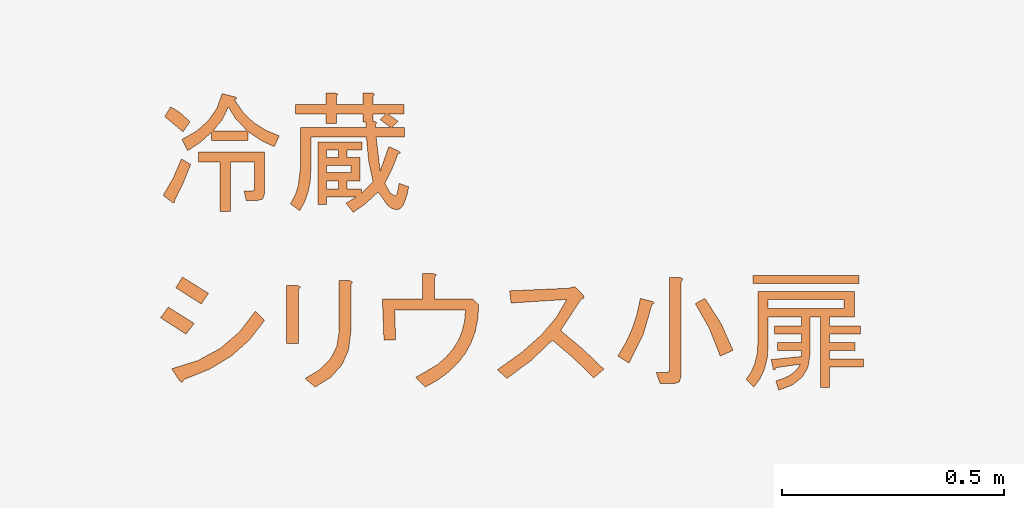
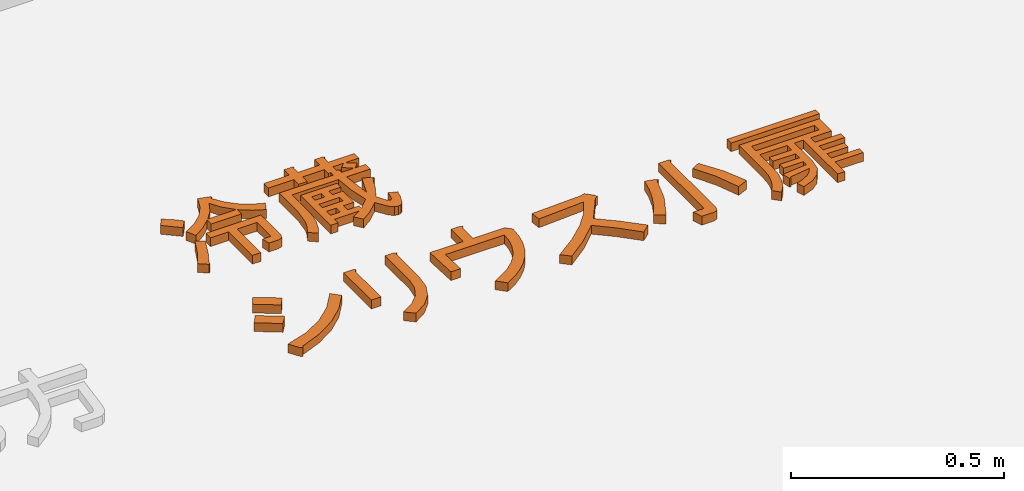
# One storey, part 10 of 16: 1 proxy.
"""IFC2X3 building model written with IfcOpenShell, lengths in millimetres."""

from ifc_helpers import new_model, entity, si_unit, converted_unit, derived_unit, direction, frame, frame_2d, origin, place, context, subcontext, project, spatial, polyline, rectangle, outline, extrude, type_object, element, save


model = new_model("IFC2X3")

# Units and contexts
model_context = context("Model", 3, precision=0.01, world=origin(), true_north=direction((6.123031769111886e-17, 1.0)))
body_context = subcontext(model_context, "Body", "Model", "MODEL_VIEW")
ifc_project = project(units=[si_unit("LENGTHUNIT", "METRE", prefix="MILLI"), si_unit("AREAUNIT", "SQUARE_METRE"), si_unit("VOLUMEUNIT", "CUBIC_METRE"), converted_unit("PLANEANGLEUNIT", "DEGREE", entity("IfcRatioMeasure", 0.017453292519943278), si_unit("PLANEANGLEUNIT", "RADIAN"), dimensions=[0, 0, 0, 0, 0, 0, 0]), si_unit("MASSUNIT", "GRAM", prefix="KILO"), derived_unit("MASSDENSITYUNIT", [(si_unit("MASSUNIT", "GRAM", prefix="KILO"), 1), (si_unit("LENGTHUNIT", "METRE"), -3)]), derived_unit("IONCONCENTRATIONUNIT", [(si_unit("MASSUNIT", "GRAM", prefix="KILO"), 1), (si_unit("LENGTHUNIT", "METRE"), -3)]), derived_unit("MOMENTOFINERTIAUNIT", [(si_unit("LENGTHUNIT", "METRE"), 4)]), si_unit("TIMEUNIT", "SECOND"), si_unit("FREQUENCYUNIT", "HERTZ"), si_unit("THERMODYNAMICTEMPERATUREUNIT", "DEGREE_CELSIUS"), derived_unit("THERMALTRANSMITTANCEUNIT", [(si_unit("MASSUNIT", "GRAM", prefix="KILO"), 1), (si_unit("THERMODYNAMICTEMPERATUREUNIT", "KELVIN"), -1), (si_unit("TIMEUNIT", "SECOND"), -3)]), derived_unit("THERMALCONDUCTANCEUNIT", [(si_unit("MASSUNIT", "GRAM", prefix="KILO"), 1), (si_unit("THERMODYNAMICTEMPERATUREUNIT", "KELVIN"), -1), (si_unit("TIMEUNIT", "SECOND"), -3), (si_unit("LENGTHUNIT", "METRE"), 1)]), derived_unit("VOLUMETRICFLOWRATEUNIT", [(si_unit("LENGTHUNIT", "METRE"), 3), (si_unit("TIMEUNIT", "SECOND"), -1)]), derived_unit("MASSFLOWRATEUNIT", [(si_unit("MASSUNIT", "GRAM", prefix="KILO"), 1), (si_unit("TIMEUNIT", "SECOND"), -1)]), derived_unit("ROTATIONALFREQUENCYUNIT", [(si_unit("TIMEUNIT", "SECOND"), -1)]), si_unit("ELECTRICCURRENTUNIT", "AMPERE"), si_unit("ELECTRICVOLTAGEUNIT", "VOLT"), si_unit("POWERUNIT", "WATT"), si_unit("FORCEUNIT", "NEWTON", prefix="KILO"), si_unit("ILLUMINANCEUNIT", "LUX"), si_unit("LUMINOUSFLUXUNIT", "LUMEN"), si_unit("LUMINOUSINTENSITYUNIT", "CANDELA"), derived_unit("USERDEFINED", [(si_unit("MASSUNIT", "GRAM", prefix="KILO"), -1), (si_unit("LENGTHUNIT", "METRE"), -2), (si_unit("TIMEUNIT", "SECOND"), 3), (si_unit("LUMINOUSFLUXUNIT", "LUMEN"), 1)]), derived_unit("USERDEFINED", [(si_unit("MASSUNIT", "GRAM", prefix="KILO"), 1), (si_unit("TIMEUNIT", "SECOND"), -3), (si_unit("LENGTHUNIT", "METRE"), 3), (si_unit("ELECTRICCURRENTUNIT", "AMPERE"), -2)]), derived_unit("SOUNDPOWERUNIT", [(si_unit("MASSUNIT", "GRAM", prefix="KILO"), 1), (si_unit("TIMEUNIT", "SECOND"), -3), (si_unit("LENGTHUNIT", "METRE"), 2)]), derived_unit("SOUNDPRESSUREUNIT", [(si_unit("MASSUNIT", "GRAM", prefix="KILO"), 1), (si_unit("LENGTHUNIT", "METRE"), -1), (si_unit("TIMEUNIT", "SECOND"), -2)]), derived_unit("LINEARVELOCITYUNIT", [(si_unit("LENGTHUNIT", "METRE"), 1), (si_unit("TIMEUNIT", "SECOND"), -1)]), si_unit("PRESSUREUNIT", "PASCAL"), derived_unit("USERDEFINED", [(si_unit("MASSUNIT", "GRAM", prefix="KILO"), 1), (si_unit("LENGTHUNIT", "METRE"), -2), (si_unit("TIMEUNIT", "SECOND"), -2)]), derived_unit("LINEARFORCEUNIT", [(si_unit("MASSUNIT", "GRAM", prefix="KILO"), 1), (si_unit("TIMEUNIT", "SECOND"), -2)]), derived_unit("PLANARFORCEUNIT", [(si_unit("MASSUNIT", "GRAM", prefix="KILO"), 1), (si_unit("LENGTHUNIT", "METRE"), -1), (si_unit("TIMEUNIT", "SECOND"), -2)]), derived_unit("SPECIFICHEATCAPACITYUNIT", [(si_unit("THERMODYNAMICTEMPERATUREUNIT", "KELVIN"), -1), (si_unit("LENGTHUNIT", "METRE"), 2), (si_unit("TIMEUNIT", "SECOND"), -2)]), derived_unit("HEATINGVALUEUNIT", [(si_unit("LENGTHUNIT", "METRE"), 2), (si_unit("TIMEUNIT", "SECOND"), -2)]), derived_unit("VAPORPERMEABILITYUNIT", [(si_unit("LENGTHUNIT", "METRE"), -1), (si_unit("TIMEUNIT", "SECOND"), 1)]), derived_unit("DYNAMICVISCOSITYUNIT", [(si_unit("MASSUNIT", "GRAM", prefix="KILO"), 1), (si_unit("TIMEUNIT", "SECOND"), -1), (si_unit("LENGTHUNIT", "METRE"), -1)]), derived_unit("THERMALEXPANSIONCOEFFICIENTUNIT", [(si_unit("THERMODYNAMICTEMPERATUREUNIT", "KELVIN"), -1)]), derived_unit("MODULUSOFELASTICITYUNIT", [(si_unit("MASSUNIT", "GRAM", prefix="KILO"), 1), (si_unit("LENGTHUNIT", "METRE"), -1), (si_unit("TIMEUNIT", "SECOND"), -2)]), derived_unit("ISOTHERMALMOISTURECAPACITYUNIT", [(si_unit("LENGTHUNIT", "METRE"), 3), (si_unit("MASSUNIT", "GRAM", prefix="KILO"), -1)]), derived_unit("MOISTUREDIFFUSIVITYUNIT", [(si_unit("TIMEUNIT", "SECOND"), -1), (si_unit("LENGTHUNIT", "METRE"), 2)])], contexts=[model_context])

# Site, building, storey
site_placement = place(None, origin())
site = spatial("IfcSite", under=ifc_project, at=site_placement, Name="Default", CompositionType="ELEMENT")
building_placement = place(site_placement, origin())
building = spatial("IfcBuilding", under=site, at=building_placement, CompositionType="ELEMENT")
storey_placement = place(building_placement, frame((0.0, 0.0, 500.0)))
storey = spatial("IfcBuildingStorey", under=building, at=storey_placement, Name="レベル 1", CompositionType="ELEMENT", Elevation=500.00000000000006)

# Proxy
building_element_proxy_type = type_object("IfcBuildingElementProxyType", Name="立体文字:200㎜\u3000MS Pゴシック", PredefinedType="NOTDEFINED")
proxy_placement = place(storey_placement, origin())
element("IfcBuildingElementProxy", 1, at=proxy_placement, inside=storey, type_object=building_element_proxy_type, Name="立体文字:200㎜\u3000MS Pゴシック", ObjectType="立体文字:200㎜\u3000MS Pゴシック", context=body_context, shape_type="SweptSolid", body=[
    extrude(outline(polyline([(-12.692928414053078, -26.50604676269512), (13.137935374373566, -26.50604676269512), (20.196666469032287, 26.89478847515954), (-7.83365700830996, 28.224694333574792), (-12.808016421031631, -2.107389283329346), (-12.692928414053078, -26.50604676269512)])), frame((-18126.052503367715, 18997.184638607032, 0.0), z_axis=(0.0, 0.0, 1.0), x_axis=(-0.5339929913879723, -0.8454889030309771, 0.0)), (0.0, 0.0, 1.0), 24.99999999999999),
    extrude(outline(polyline([(-86.1524291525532, -7.393505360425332), (-75.80730398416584, -7.393505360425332), (-75.80730398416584, 24.79132849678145), (-57.415970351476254, 24.79132849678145), (-57.415970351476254, -3.945130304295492), (-4.5408861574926, -3.945130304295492), (-4.5408861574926, 24.79132849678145), (11.551530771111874, 24.79132849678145), (11.551530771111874, -8.54296371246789), (29.942864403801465, -8.54296371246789), (29.942864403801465, 90.31045456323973), (-111.44051289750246, 90.31045456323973), (-111.44051289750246, 70.76966257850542), (-94.19863761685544, 70.76966257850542), (-94.19863761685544, 4.101078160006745), (-107.99213784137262, 27.090245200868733), (-128.68238817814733, 10.997828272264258), (-110.29105454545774, -15.727078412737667), (-82.70405409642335, -45.32563097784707), (-112.87733583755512, -66.5906104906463), (-120.4206562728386, -76.79205336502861), (-122.93509641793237, -86.70613165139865), (-120.7798620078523, -94.68049896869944), (-114.31415877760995, -101.36172563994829), (-88.45134585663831, -110.84475704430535), (-71.20947057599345, -114.29313210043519), (-63.16326211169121, -92.45342341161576), (-78.10622068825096, -90.15450670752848), (-88.45134585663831, -87.28086082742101), (-91.89972091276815, -83.25775659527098), (-84.71560621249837, -72.33790225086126), (-63.16326211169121, -60.26858955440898), (-30.403699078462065, -76.93573565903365), (3.5053223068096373, -90.15450670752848), (5.516874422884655, -95.9017984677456), (9.252614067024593, -92.45342341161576), (19.597739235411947, -69.46425637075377), (-35.576261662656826, -49.92346438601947), (41.43744792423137, -40.72779756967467), (41.43744792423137, -105.0974652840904), (63.277156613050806, -105.0974652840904), (63.277156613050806, -76.3610064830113), (77.070656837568, -90.15450670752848), (93.16307376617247, -67.1653396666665), (93.16307376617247, -103.94800693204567), (115.00278245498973, -103.94800693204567), (115.00278245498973, -33.83104745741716), (133.39411608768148, -33.83104745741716), (137.9919494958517, -37.5667871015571), (140.290866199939, -32.6815891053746), (140.290866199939, -10.84188041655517), (115.00278245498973, -10.84188041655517), (115.00278245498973, 48.929953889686), (133.39411608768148, 48.929953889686), (137.9919494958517, 45.19421424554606), (140.290866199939, 50.079412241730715), (140.290866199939, 71.91912093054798), (115.00278245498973, 71.91912093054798), (115.00278245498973, 140.8866220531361), (93.16307376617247, 140.8866220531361), (93.16307376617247, 71.91912093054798), (71.32336507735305, 71.91912093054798), (71.32336507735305, 48.929953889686), (93.16307376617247, 48.929953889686), (93.16307376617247, -10.84188041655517), (74.77174013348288, -10.84188041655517), (74.77174013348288, -17.738630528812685), (63.277156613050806, -17.738630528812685), (63.277156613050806, 129.39203853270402), (-24.081678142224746, 129.39203853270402), (-70.63474139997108, 135.139330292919), (-90.89394485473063, 142.32344499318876), (-109.14159619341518, 152.381205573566), (-125.23401312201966, 131.69095523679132), (-105.2621742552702, 120.62741859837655), (-83.27878327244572, 112.72489242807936), (-59.283840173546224, 107.98337672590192), (-33.27734495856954, 106.40287149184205), (41.43744792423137, 106.40287149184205), (41.43744792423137, -18.888088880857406), (-12.012365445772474, -23.773286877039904), (-59.71488705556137, -33.83104745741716), (-86.1524291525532, -7.393505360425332)]), holes=[polyline([(75.92119848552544, -38.428880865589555), (75.92119848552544, -33.83104745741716), (93.16307376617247, -33.83104745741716), (93.16307376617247, -62.5675062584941), (80.51903189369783, -49.92346438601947), (63.277156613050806, -72.91263142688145), (63.277156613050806, -39.57833921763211), (70.17390672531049, -39.57833921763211), (73.33491719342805, -43.31407886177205), (75.92119848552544, -38.428880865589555)]), polyline([(-4.5408861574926, 70.76966257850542), (11.551530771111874, 70.76966257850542), (11.551530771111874, 44.3321204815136), (-4.5408861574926, 44.3321204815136), (-4.5408861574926, 70.76966257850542)]), polyline([(-39.02463671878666, 70.76966257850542), (-22.932219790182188, 70.76966257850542), (-22.932219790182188, 15.595661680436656), (-39.02463671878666, 15.595661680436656), (-39.02463671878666, 70.76966257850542)]), polyline([(-75.80730398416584, 70.76966257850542), (-57.415970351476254, 70.76966257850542), (-57.415970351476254, 44.3321204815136), (-75.80730398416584, 44.3321204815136), (-75.80730398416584, 70.76966257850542)])]), frame((-17719.181218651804, 18912.81492123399, 0.0), z_axis=(0.0, 0.0, 1.0), x_axis=(0.0, 1.0, 0.0)), (0.0, 0.0, 1.0), 25.0),
    extrude(outline(polyline([(-14.555450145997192, -34.358308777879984), (13.83407691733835, -34.358308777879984), (14.857961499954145, 33.86963659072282), (-14.13658827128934, 34.84698096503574), (-14.555450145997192, -34.358308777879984)])), frame((-18093.695250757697, 18607.702182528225, 0.0), z_axis=(0.0, 0.0, 1.0), x_axis=(-0.526354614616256, -0.8502651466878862, 0.0)), (0.0, 0.0, 1.0), 24.99999999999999),
    extrude(outline(polyline([(-84.58097707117, 8.18989075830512), (-84.58097707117, -18.247651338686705), (45.307816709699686, -18.247651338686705), (45.307816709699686, 7.040432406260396), (42.43417082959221, 13.075088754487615), (36.112149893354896, 8.18989075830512), (-84.58097707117, 8.18989075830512)])), frame((-17862.05065636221, 18573.314220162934, 0.0), z_axis=(0.0, 0.0, -1.0), x_axis=(0.0, 1.0, 0.0)), (0.0, 0.0, -1.0), 25.0),
    extrude(outline(polyline([(-11.477428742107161, -36.07605005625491), (15.650762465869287, -36.07605005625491), (18.54865721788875, -33.22685941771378), (15.261129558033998, -27.796350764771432), (8.86871466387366, 11.398284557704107), (-3.1003212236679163, 57.19232725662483), (-27.257561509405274, 55.09805037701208), (-16.493952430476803, 9.486648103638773), (-11.477428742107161, -36.07605005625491)])), frame((-18128.286763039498, 18844.299493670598, 0.0), z_axis=(0.0, 0.0, 1.0), x_axis=(0.805055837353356, -0.5931990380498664, 0.0)), (0.0, 0.0, 1.0), 24.999999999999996),
    extrude(outline(polyline([(-21.439239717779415, -112.6130363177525), (6.8336974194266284, -112.6130363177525), (2.5927568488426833, -77.40037824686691), (-6.017637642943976, -45.78609399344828), (10.432071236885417, -54.01094843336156), (47.44391621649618, 20.012741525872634), (29.966100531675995, 28.751649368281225), (60.93781803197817, 46.357978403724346), (85.99792140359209, 66.27754775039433), (69.54821252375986, 87.35373725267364), (43.46000234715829, 64.89602923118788), (15.058551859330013, 48.41419201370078), (-15.656138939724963, 37.908225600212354), (-48.68407005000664, 33.37812999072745), (-48.298529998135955, 38.64717736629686), (-52.282443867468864, 39.0327174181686), (-73.35863336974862, 14.872207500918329), (-49.680048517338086, -10.059382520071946), (-33.13395462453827, -39.61745316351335), (-23.720351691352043, -73.80200442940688), (-21.439239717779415, -112.6130363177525)]), holes=[polyline([(26.881780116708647, 27.723542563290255), (-7.559797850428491, -41.15961337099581), (-20.668159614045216, -11.473029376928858), (-40.45921561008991, 13.844100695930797), (-9.23047140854, 16.542881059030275), (26.881780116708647, 27.723542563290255)])]), frame((-18006.084971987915, 18979.691319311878, 0.0), z_axis=(0.0, 0.0, 1.0), x_axis=(0.4472135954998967, -0.8944271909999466, 0.0)), (0.0, 0.0, 1.0), 24.99999999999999),
    extrude(outline(polyline([(-95.80016952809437, -47.900084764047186), (-95.80016952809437, -69.73979345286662), (53.629416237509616, -69.73979345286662), (53.629416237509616, 24.51579141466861), (49.60631200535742, 35.723010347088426), (37.536999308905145, 39.458749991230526), (12.248915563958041, 39.458749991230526), (7.6510821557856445, 17.619041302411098), (26.042415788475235, 17.619041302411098), (29.49079084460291, 16.469582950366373), (30.64024919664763, 13.0212078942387), (30.64024919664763, -47.900084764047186), (-23.384293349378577, -47.900084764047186), (-23.384293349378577, 63.59737538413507), (-46.37346039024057, 63.59737538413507), (-46.37346039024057, -47.900084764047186), (-95.80016952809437, -47.900084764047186)])), frame((-17983.81421641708, 18850.02882514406, 0.0), z_axis=(0.0, 0.0, -1.0), x_axis=(1.0, 0.0, 0.0)), (0.0, 0.0, -1.0), 24.99999999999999),
    extrude(outline(polyline([(-24.760861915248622, -100.93244714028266), (5.213344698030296, -100.93244714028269), (14.007247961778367, -98.35378377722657), (10.414751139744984, -90.61779368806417), (21.87547719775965, -29.787786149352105), (23.197868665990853, 27.95664129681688), (14.381925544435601, 82.61548865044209), (-4.572352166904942, 134.1887559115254), (-33.1360078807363, 127.84127686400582), (-12.97504795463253, 72.94550103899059), (-4.858870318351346, 16.51795509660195), (-8.787474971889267, -41.44136096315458), (-24.760861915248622, -100.93244714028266)])), frame((-18040.93990180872, 18464.558697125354, 0.0), z_axis=(0.0, 0.0, 1.0), x_axis=(0.5368754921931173, -0.8436614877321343, 0.0)), (0.0, 0.0, 1.0), 24.99999999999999),
    extrude(outline(polyline([(12.171942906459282, 32.40035729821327), (-27.91541712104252, 27.37147700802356), (-61.96812080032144, 12.284836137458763), (-89.98616813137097, -12.859565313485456), (-111.96955911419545, -48.061727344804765), (-92.4287671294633, -71.05089438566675), (-72.88797514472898, -37.78844332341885), (-48.74934975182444, -13.865341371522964), (-20.0128909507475, 0.7184114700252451), (13.321401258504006, 5.962815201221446), (128.26723646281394, 5.962815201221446), (128.26723646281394, 30.10144059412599), (124.8188614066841, 36.423461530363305), (119.07156964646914, 32.40035729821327), (12.171942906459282, 32.40035729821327)])), frame((-17767.86691264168, 18501.84938393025, 0.0), z_axis=(0.0, 0.0, -1.0), x_axis=(0.0, 1.0, 0.0)), (0.0, 0.0, -1.0), 25.0),
    extrude(outline(polyline([(-12.927911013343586, -34.30740209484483), (16.736132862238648, -34.30740209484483), (13.261965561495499, 33.83972572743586), (-17.070187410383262, 34.77507846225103), (-12.927911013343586, -34.30740209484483)])), frame((-18127.02954296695, 18539.884139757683, 0.0), z_axis=(0.0, 0.0, 1.0), x_axis=(-0.5812381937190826, -0.8137334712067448, 0.0)), (0.0, 0.0, 1.0), 24.99999999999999),
    extrude(outline(polyline([(-22.974011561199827, -96.89434063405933), (-3.467056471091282, -96.89434063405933), (57.492178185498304, -35.935105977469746), (91.62934959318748, -70.07227738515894), (93.0517317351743, -77.59058299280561), (100.57003734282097, -74.13622636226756), (116.82583325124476, -57.88043045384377), (76.18634348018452, -17.240940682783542), (140.39673731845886, 46.9694531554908), (72.12239450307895, 110.36705719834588), (53.428229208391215, 91.67289190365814), (103.00840672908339, 45.343873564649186), (-9.969374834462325, -67.6339079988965), (-25.869575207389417, -48.88894334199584), (-38.21382022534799, -28.823195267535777), (-47.002109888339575, -7.436663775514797), (-52.23444419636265, 15.270651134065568), (-53.91082314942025, 39.29874946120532), (-52.03124674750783, 64.64763120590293), (-37.604227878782, 119.30774494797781), (-68.49024010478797, 119.30774494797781), (-77.20233072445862, 88.01533782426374), (-81.79967300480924, 57.94211539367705), (-82.28226694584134, 29.0880776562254), (-78.6501125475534, 1.4532246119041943), (-70.90320980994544, -24.9624437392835), (-59.04155873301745, -50.15892739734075), (-43.06515931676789, -74.13622636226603), (-22.974011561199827, -96.89434063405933)])), frame((-17531.71223366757, 18522.673053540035, 0.0), z_axis=(0.0, 0.0, 1.0), x_axis=(-0.7071067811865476, 0.7071067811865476, 0.0)), (0.0, 0.0, 1.0), 24.999999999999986),
    extrude(outline(polyline([(5.52509168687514, 11.308020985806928), (-1.6526031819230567, 74.77664998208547), (-13.951595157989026, 140.91623239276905), (-42.89874219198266, 132.4070002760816), (-29.96943672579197, 67.22864593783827), (-22.82325753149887, 7.904328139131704), (-87.34766162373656, -7.171982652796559), (-151.01326358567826, -30.371458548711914), (-146.648342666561, -59.35012125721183), (-83.07334826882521, -34.7166821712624), (-25.48633202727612, -19.214909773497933), (26.112706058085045, -12.844804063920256), (71.72376598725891, -15.606365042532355), (-3.7090009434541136, -115.96803050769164), (17.46953232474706, -133.97923848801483), (95.39203754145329, -25.628349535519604), (105.83948364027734, -15.984553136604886), (100.54485032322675, 9.480111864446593), (96.59357263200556, 15.50748461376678), (89.3725437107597, 11.30802098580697), (5.52509168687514, 11.308020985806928)])), frame((-17274.78951065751, 18519.0502071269, 0.0), z_axis=(0.0, 0.0, -1.0), x_axis=(0.548356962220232, 0.8362443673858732, 0.0)), (0.0, 0.0, -1.0), 25.0),
    extrude(outline(polyline([(-1.1670104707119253, -84.82369873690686), (28.807196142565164, -84.82369873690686), (21.005086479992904, -13.15008115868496), (1.4777724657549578, 54.46820258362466), (4.232754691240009, 60.308764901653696), (-1.2551699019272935, 60.90384106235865), (-28.231955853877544, 51.91157907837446), (-15.696786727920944, 19.099740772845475), (-7.007572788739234, -14.626751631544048), (-2.1643140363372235, -49.267898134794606), (-1.1670104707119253, -84.82369873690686)])), frame((-17086.580073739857, 18530.932732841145, 0.0), z_axis=(0.0, 0.0, 1.0), x_axis=(0.8436614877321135, -0.53687549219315, 0.0)), (0.0, 0.0, 1.0), 24.99999999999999),
    extrude(outline(polyline([(11.877736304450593, 63.81888558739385), (37.165820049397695, 63.81888558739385), (27.9701532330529, 89.10696933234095), (-4.21468062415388, 89.10696933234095), (-15.421899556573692, 85.37122968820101), (-19.15763920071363, 74.1640107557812), (-19.15763920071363, -140.7847010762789), (-24.04283719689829, -146.53199283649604), (-18.00818084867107, -149.98036789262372), (7.279902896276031, -149.98036789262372), (7.279902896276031, 59.22105217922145), (8.429361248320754, 62.669427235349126), (11.877736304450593, 63.81888558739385)])), frame((-17009.729204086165, 18487.033002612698, 0.0), z_axis=(0.0, 0.0, 1.0), x_axis=(-1.0, 0.0, 0.0)), (0.0, 0.0, 1.0), 24.99999999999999),
    extrude(rectangle(XDim=239.08733722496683, YDim=18.39133363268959, at=frame_2d((1.0800249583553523e-12, 0.0), x_axis=(1.0, 0.0))), frame((-16708.954268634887, 18632.41553709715, 0.0), z_axis=(0.0, 0.0, 1.0), x_axis=(-1.0, 0.0, 0.0)), (0.0, 0.0, 1.0), 25.0),
    extrude(outline(polyline([(45.656903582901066, -73.01948813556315), (67.46634239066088, -73.01948813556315), (65.92150714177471, -40.16902093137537), (56.56162298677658, -13.952258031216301), (39.38668992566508, 5.63080056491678), (14.396707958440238, 18.580154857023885), (-67.38868757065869, 45.84195336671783), (-59.755383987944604, 68.74186411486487), (91.82021572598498, 18.21666421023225), (97.99955672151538, 36.754687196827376), (54.38067910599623, 51.29431306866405), (78.73455244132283, 124.35593307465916), (61.28700139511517, 130.17178342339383), (36.933128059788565, 57.11016341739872), (18.39510507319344, 63.28950441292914), (36.56963741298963, 117.8131014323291), (19.122086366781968, 123.62895178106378), (0.9475540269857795, 69.10535476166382), (-16.49999701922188, 74.92120511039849), (5.672932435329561, 141.43999347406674), (-11.774618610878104, 147.2558438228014), (-33.947548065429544, 80.73705545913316), (-53.576042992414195, 87.27988710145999), (-35.76500129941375, 140.7130121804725), (-90.2885983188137, 158.8875445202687), (-158.98833056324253, -47.211652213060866), (-48.85066458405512, -83.92420753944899), (-26.88219861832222, -92.98875554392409), (-7.867094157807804, -104.55230174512), (8.194648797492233, -118.6148461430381), (21.303030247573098, -135.17638873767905), (43.11246905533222, -124.27166933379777), (29.36797897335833, -104.84763789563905), (11.761400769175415, -88.37696796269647), (-9.707265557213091, -74.85965953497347), (-35.03802000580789, -64.29571261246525), (-97.19492060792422, -43.57674574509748), (-73.56802856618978, 27.303930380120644), (-53.939533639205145, 20.761098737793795), (-73.20453791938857, -37.03391410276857), (-55.75698687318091, -42.84976445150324), (-36.49198259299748, 14.945248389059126), (-19.04443154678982, 9.129398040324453), (-36.12849194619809, -42.122783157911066), (-18.680940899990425, -47.938633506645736), (-1.5968805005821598, 3.3135476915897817), (11.488782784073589, -1.0483400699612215), (-3.414333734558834, -67.56712843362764), (18.758595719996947, -70.11156296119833), (21.303030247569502, -67.02189246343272), (17.30463313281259, -63.56873131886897), (27.118880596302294, -8.681643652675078), (36.31973759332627, -19.92713553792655), (42.47636042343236, -34.39860691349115), (45.588749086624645, -52.09605777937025), (45.656903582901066, -73.01948813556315)]), holes=[polyline([(-80.1108602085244, 131.26225536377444), (-60.48236528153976, 124.7194237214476), (-114.64247165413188, -37.760895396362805), (-134.2709665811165, -31.21806375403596), (-80.1108602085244, 131.26225536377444)])]), frame((-16721.937923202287, 18470.078056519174, 0.0), z_axis=(0.0, 0.0, 1.0), x_axis=(0.3162277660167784, -0.9486832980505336, 0.0)), (0.0, 0.0, 1.0), 24.999999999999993),
    extrude(outline(polyline([(-11.724299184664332, -66.08302194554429), (12.955618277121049, -66.08302194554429), (11.095255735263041, -1.130939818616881), (18.25564393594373, 64.91862236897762), (-13.06268950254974, 67.11358249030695), (-17.51952926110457, 1.2647788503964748), (-11.724299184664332, -66.08302194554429)])), frame((-16916.144136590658, 18525.946957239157, 0.0), z_axis=(0.0, 0.0, 1.0), x_axis=(-0.8849182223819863, -0.46574643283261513, 0.0)), (0.0, 0.0, 1.0), 24.999999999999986),
])

save(model, "model.ifc")
